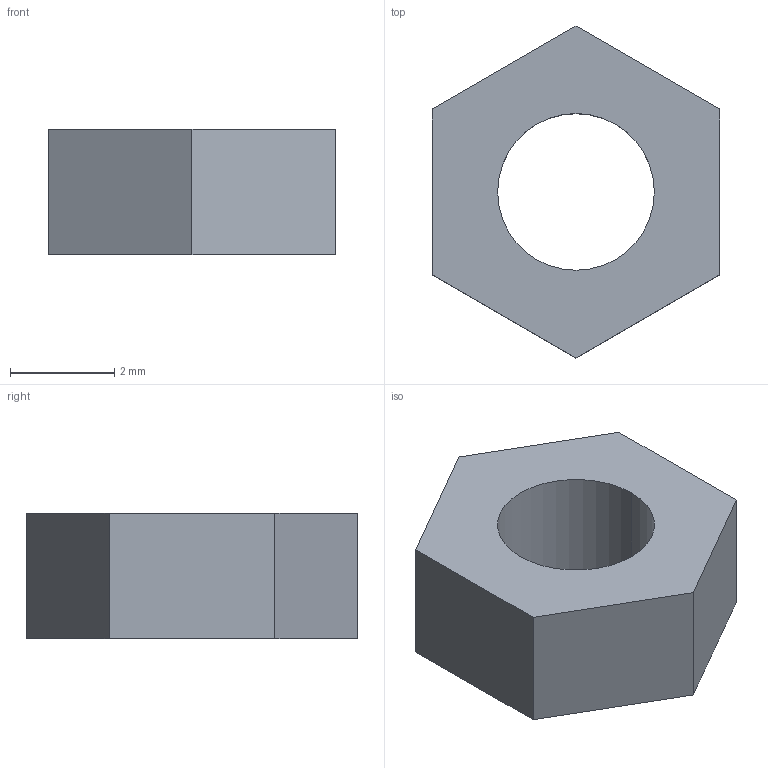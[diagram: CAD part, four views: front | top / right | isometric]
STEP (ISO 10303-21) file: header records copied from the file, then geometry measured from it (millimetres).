
FILE_DESCRIPTION (( 'STEP AP203' ), '1' );
FILE_NAME ('REF_M3_plain_nut.step', '2026-10-15T10:09:38', ( '' ), ( '' ), 'SwSTEP 2.0', 'SolidWorks 2025', '' );
FILE_SCHEMA (( 'CONFIG_CONTROL_DESIGN' ));
Length unit declared in the file: millimetre
Products named in the file (1): REF_M3_plain_nut
Bounding box: 5.5 x 6.35 x 2.4 mm (x, y, z)
Volume: 45.9 mm3; surface area: 106.6 mm2
Topology: 1 solids, 1 shells, 10 faces, 24 edges, 16 vertices
Faces by surface type: plane 8, cylinder 2
Entity records: 373 total; most frequent: CARTESIAN_POINT 51, DIRECTION 50, ORIENTED_EDGE 48, EDGE_CURVE 24, LINE 20, VECTOR 20, VERTEX_POINT 16, AXIS2_PLACEMENT_3D 15
